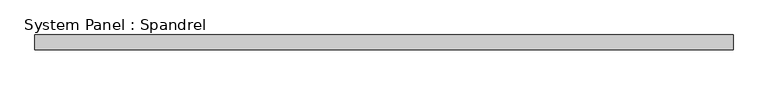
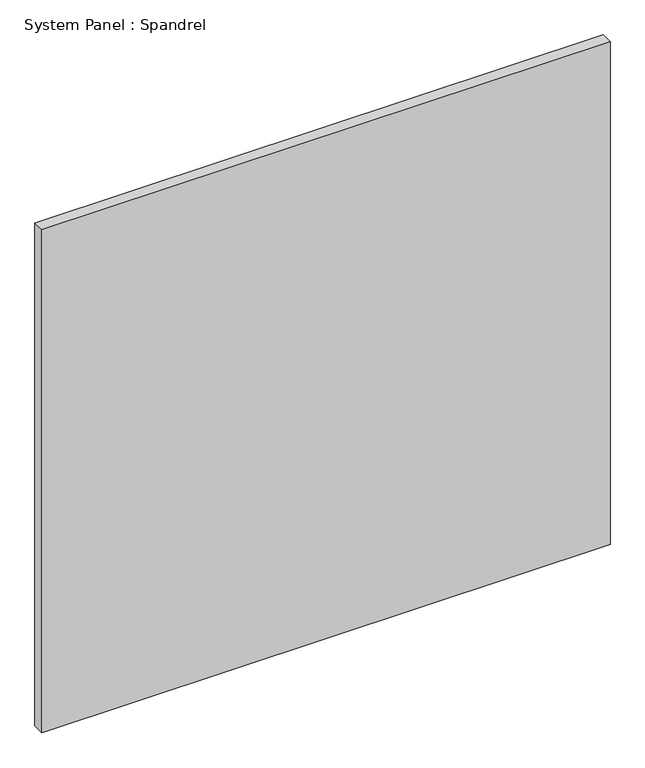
"""IFC4 building model written with IfcOpenShell, lengths in millimetres: plate geometry, System Panel : Spandrel."""

from ifc_helpers import new_model, si_unit, origin, origin_with_axes, place, context, project, spatial, polyline, outline, extrude, source, transform, mapped, element, save


def system_panel_spandrel_a79d12af(model_context):
    return source(origin(), model_context, "Body", "SweptSolid", [
        extrude(outline(polyline([(587.5000002, -25.0), (-587.5000002, -25.0), (-587.5000002, 0.0), (587.5000002, 0.0), (587.5000002, -25.0)])), origin_with_axes(), (0.0, 0.0, 1.0), 1100.0),
    ])


if __name__ == "__main__":
    model = new_model("IFC4")
    model_context = context("Model", 3, world=origin())
    ifc_project = project(units=[si_unit("LENGTHUNIT", "METRE", prefix="MILLI")], contexts=[model_context])
    site = spatial("IfcSite", under=ifc_project)
    building = spatial("IfcBuilding", under=site)
    placement = place(None, origin())
    system_panel_spandrel_shape = system_panel_spandrel_a79d12af(model_context)
    element("IfcPlate", 1, ObjectType="System Panel : Spandrel", at=placement, inside=building, context=model_context, shape_type="MappedRepresentation", body=[
        mapped(system_panel_spandrel_shape, transform((0.0, 0.0, 0.0), x_axis=(1.0, 0.0, 0.0), y_axis=(0.0, 1.0, 0.0), z_axis=(0.0, 0.0, 1.0))),
    ])
    save(model, "model.ifc")
